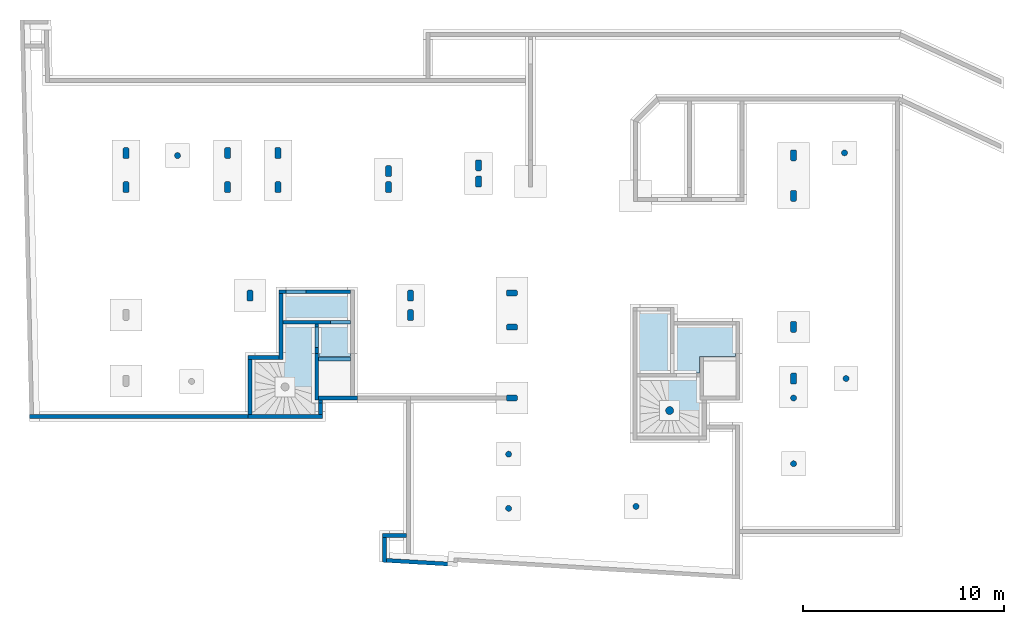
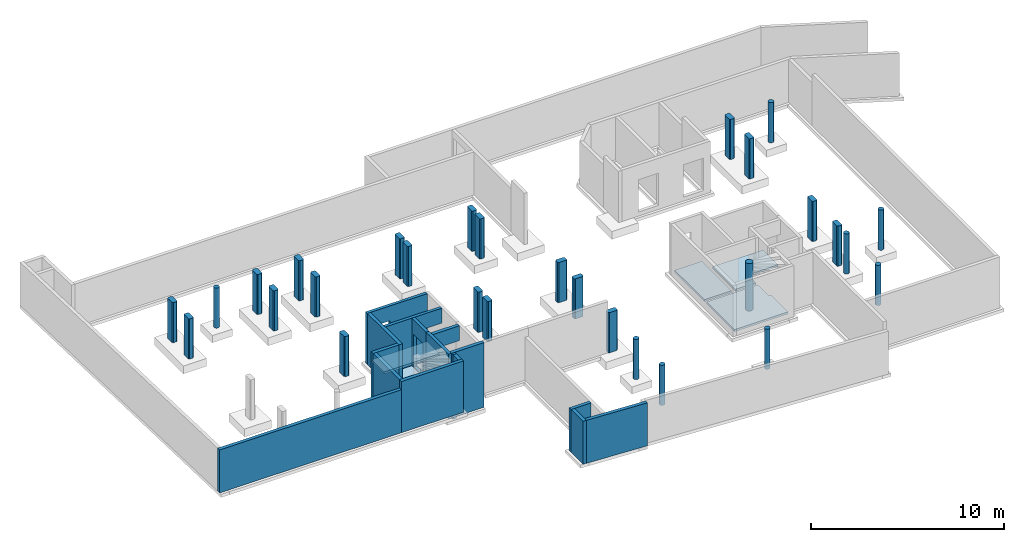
# One storey, part 3 of 6: 29 columns, 16 walls, 6 slabs, 4 openings.
"""IFC2X3 building model written with IfcOpenShell, lengths in millimetres."""

from ifc_helpers import new_model, entity, si_unit, converted_unit, frame, frame_2d, origin, origin_with_axes, place, context, subcontext, project, spatial, polyline, rectangle, circle, outline, extrude, faceted_brep, material, layer, layer_set, layer_usage, element, save


model = new_model("IFC2X3")

# Units and contexts
model_context = context("Model", 3, precision=1e-05, world=origin())
body_context = subcontext(model_context, "Body", "Model", "MODEL_VIEW")
ifc_project = project(units=[si_unit("LENGTHUNIT", "METRE", prefix="MILLI"), converted_unit("PLANEANGLEUNIT", "DEGREE", entity("IfcPlaneAngleMeasure", 0.0174532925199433), si_unit("PLANEANGLEUNIT", "RADIAN"), dimensions=[0, 0, 0, 0, 0, 0, 0]), si_unit("AREAUNIT", "SQUARE_METRE"), si_unit("VOLUMEUNIT", "CUBIC_METRE")], contexts=[model_context])

# Site, building, storey
site_placement = place(None, origin())
site = spatial("IfcSite", under=ifc_project, at=site_placement, Name="Propriété", CompositionType="ELEMENT")
building_placement = place(site_placement, origin_with_axes())
building = spatial("IfcBuilding", under=site, at=building_placement, Name="Bâtiment", CompositionType="ELEMENT")
storey_placement = place(building_placement, frame((0.0, 0.0, -3300.0), z_axis=(0.0, 0.0, 1.0), x_axis=(1.0, 0.0, 0.0)))
storey = spatial("IfcBuildingStorey", under=building, at=storey_placement, Name="Sous-sol", CompositionType="ELEMENT", Elevation=-3300.0)

# Columns
ifc_material_1 = material(Name="<Unnamed Material>")
column_1_placement = place(storey_placement, frame((3051.206901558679, 13315.04901986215, 0.0), z_axis=(0.0, 0.0, 1.0), x_axis=(1.0, 0.0, 0.0)))
element("IfcColumn", 1, at=column_1_placement, inside=storey, material=ifc_material_1, Name="<Unnamed Element>", context=body_context, shape_type="SweptSolid", body=[
    extrude(circle(Radius=150.0000000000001, at=frame_2d((149.3808548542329, 149.3808548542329), x_axis=(1.0, 0.0))), origin_with_axes(), (0.0, 0.0, 1.0), 2540.0),
])
ifc_material_2 = material(Name="<Unnamed Material>")
column_2_placement = place(storey_placement, frame((19551.20690155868, -1564.950980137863, 0.0), z_axis=(0.0, 0.0, 1.0), x_axis=(1.0, 0.0, 0.0)))
element("IfcColumn", 2, at=column_2_placement, inside=storey, material=ifc_material_2, Name="<Unnamed Element>", context=body_context, shape_type="SweptSolid", body=[
    extrude(circle(Radius=150.0000000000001, at=frame_2d((149.3808548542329, 149.3808548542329), x_axis=(1.0, 0.0))), origin_with_axes(), (0.0, 0.0, 1.0), 2540.0),
])
ifc_material_3 = material(Name="<Unnamed Material>")
column_3_placement = place(storey_placement, frame((19551.20690155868, -4264.950980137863, 0.0), z_axis=(0.0, 0.0, 1.0), x_axis=(1.0, 0.0, 0.0)))
element("IfcColumn", 3, at=column_3_placement, inside=storey, material=ifc_material_3, Name="<Unnamed Element>", context=body_context, shape_type="SweptSolid", body=[
    extrude(circle(Radius=150.0000000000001, at=frame_2d((149.3808548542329, 149.3808548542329), x_axis=(1.0, 0.0))), origin_with_axes(), (0.0, 0.0, 1.0), 2540.0),
])
ifc_material_4 = material(Name="<Unnamed Material>")
column_4_placement = place(storey_placement, frame((25901.20690155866, -4164.950980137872, 0.0), z_axis=(0.0, 0.0, 1.0), x_axis=(1.0, 0.0, 0.0)))
element("IfcColumn", 4, at=column_4_placement, inside=storey, material=ifc_material_4, Name="<Unnamed Element>", context=body_context, shape_type="SweptSolid", body=[
    extrude(circle(Radius=150.0000000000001, at=frame_2d((149.3808548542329, 149.3808548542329), x_axis=(1.0, 0.0))), origin_with_axes(), (0.0, 0.0, 1.0), 2540.0),
])
ifc_material_5 = material(Name="<Unnamed Material>")
column_5_placement = place(storey_placement, frame((33751.20690155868, -2039.95098013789, 0.0), z_axis=(0.0, 0.0, 1.0), x_axis=(1.0, 0.0, 0.0)))
element("IfcColumn", 5, at=column_5_placement, inside=storey, material=ifc_material_5, Name="<Unnamed Element>", context=body_context, shape_type="SweptSolid", body=[
    extrude(circle(Radius=150.0000000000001, at=frame_2d((149.3808548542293, 149.3808548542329), x_axis=(1.0, 0.0))), origin_with_axes(), (0.0, 0.0, 1.0), 2540.0),
])
ifc_material_6 = material(Name="<Unnamed Material>")
column_6_placement = place(storey_placement, frame((36371.20690155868, 2205.049019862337, 0.0), z_axis=(0.0, 0.0, 1.0), x_axis=(1.0, 0.0, 0.0)))
element("IfcColumn", 6, at=column_6_placement, inside=storey, material=ifc_material_6, Name="<Unnamed Element>", context=body_context, shape_type="SweptSolid", body=[
    extrude(circle(Radius=150.0000000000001, at=frame_2d((149.3808548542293, 149.3808548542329), x_axis=(1.0, 0.0))), origin_with_axes(), (0.0, 0.0, 1.0), 2540.0),
])
ifc_material_7 = material(Name="<Unnamed Material>")
column_7_placement = place(storey_placement, frame((36291.20690155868, 13455.04901986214, 0.0), z_axis=(0.0, 0.0, 1.0), x_axis=(1.0, 0.0, 0.0)))
element("IfcColumn", 7, at=column_7_placement, inside=storey, material=ifc_material_7, Name="<Unnamed Element>", context=body_context, shape_type="SweptSolid", body=[
    extrude(circle(Radius=150.0000000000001, at=frame_2d((149.3808548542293, 149.3808548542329), x_axis=(1.0, 0.0))), origin_with_axes(), (0.0, 0.0, 1.0), 2540.0),
])
ifc_material_8 = material(Name="<Unnamed Material>")
column_8_placement = place(storey_placement, frame((19585.5877564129, 6462.14711771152, 0.0), z_axis=(0.0, 0.0, 1.0), x_axis=(1.0, 0.0, 0.0)))
element("IfcColumn", 8, at=column_8_placement, inside=storey, material=ifc_material_8, Name="<Unnamed Element>", context=body_context, shape_type="SweptSolid", body=[
    extrude(outline(polyline([(0.0, 50.0), (50.0, 0.0), (500.0, 0.0), (550.0, 50.0), (550.0, 250.0), (500.0, 300.0), (50.0, 300.0), (0.0, 250.0), (0.0, 50.0)])), origin_with_axes(), (0.0, 0.0, 1.0), 2540.0),
])
ifc_material_9 = material(Name="<Unnamed Material>")
column_9_placement = place(storey_placement, frame((19585.5877564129, 4762.147117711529, 0.0), z_axis=(0.0, 0.0, 1.0), x_axis=(1.0, 0.0, 0.0)))
element("IfcColumn", 9, at=column_9_placement, inside=storey, material=ifc_material_9, Name="<Unnamed Element>", context=body_context, shape_type="SweptSolid", body=[
    extrude(outline(polyline([(0.0, 50.0), (50.0, 0.0), (500.0, 0.0), (550.0, 50.0), (550.0, 250.0), (500.0, 300.0), (50.0, 300.0), (0.0, 250.0), (0.0, 50.0)])), origin_with_axes(), (0.0, 0.0, 1.0), 2540.0),
])
ifc_material_10 = material(Name="<Unnamed Material>")
column_10_placement = place(storey_placement, frame((19585.5877564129, 1234.429874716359, 0.0), z_axis=(0.0, 0.0, 1.0), x_axis=(1.0, 0.0, 0.0)))
element("IfcColumn", 10, at=column_10_placement, inside=storey, material=ifc_material_10, Name="<Unnamed Element>", context=body_context, shape_type="SweptSolid", body=[
    extrude(outline(polyline([(0.0, 50.0), (50.0, 0.0), (500.0, 0.0), (550.0, 50.0), (550.0, 250.0), (500.0, 300.0), (50.0, 300.0), (0.0, 250.0), (0.0, 50.0)])), origin_with_axes(), (0.0, 0.0, 1.0), 2540.0),
])
ifc_material_11 = material(Name="<Unnamed Material>")
column_11_placement = place(storey_placement, frame((33750.58775641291, 13204.42987471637, 0.0), z_axis=(0.0, 0.0, 1.0), x_axis=(1.0, 0.0, 0.0)))
element("IfcColumn", 11, at=column_11_placement, inside=storey, material=ifc_material_11, Name="<Unnamed Element>", context=body_context, shape_type="SweptSolid", body=[
    extrude(outline(polyline([(250.0, 0.0), (300.0, 50.0), (300.0, 500.0), (250.0, 550.0), (50.0, 550.0), (0.0, 500.0), (0.0, 50.0), (50.0, 0.0), (250.0, 0.0)])), origin_with_axes(), (0.0, 0.0, 1.0), 2540.0),
])
ifc_material_12 = material(Name="<Unnamed Material>")
column_12_placement = place(storey_placement, frame((33750.58775641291, 11184.42987471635, 0.0), z_axis=(0.0, 0.0, 1.0), x_axis=(1.0, 0.0, 0.0)))
element("IfcColumn", 12, at=column_12_placement, inside=storey, material=ifc_material_12, Name="<Unnamed Element>", context=body_context, shape_type="SweptSolid", body=[
    extrude(outline(polyline([(250.0, 0.0), (300.0, 50.0), (300.0, 500.0), (250.0, 550.0), (50.0, 550.0), (0.0, 500.0), (0.0, 50.0), (50.0, 0.0), (250.0, 0.0)])), origin_with_axes(), (0.0, 0.0, 1.0), 2540.0),
])
ifc_material_13 = material(Name="<Unnamed Material>")
column_13_placement = place(storey_placement, frame((33750.58775641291, 4654.429874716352, 0.0), z_axis=(0.0, 0.0, 1.0), x_axis=(1.0, 0.0, 0.0)))
element("IfcColumn", 13, at=column_13_placement, inside=storey, material=ifc_material_13, Name="<Unnamed Element>", context=body_context, shape_type="SweptSolid", body=[
    extrude(outline(polyline([(250.0, 0.0), (300.0, 50.0), (300.0, 500.0), (250.0, 550.0), (50.0, 550.0), (0.0, 500.0), (0.0, 50.0), (50.0, 0.0), (250.0, 0.0)])), origin_with_axes(), (0.0, 0.0, 1.0), 2540.0),
])
ifc_material_14 = material(Name="<Unnamed Material>")
column_14_placement = place(storey_placement, frame((33750.58775641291, 2079.42987471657, 0.0), z_axis=(0.0, 0.0, 1.0), x_axis=(1.0, 0.0, 0.0)))
element("IfcColumn", 14, at=column_14_placement, inside=storey, material=ifc_material_14, Name="<Unnamed Element>", context=body_context, shape_type="SweptSolid", body=[
    extrude(outline(polyline([(250.0, 0.0), (300.0, 50.0), (300.0, 500.0), (250.0, 550.0), (50.0, 550.0), (0.0, 500.0), (0.0, 50.0), (50.0, 0.0), (250.0, 0.0)])), origin_with_axes(), (0.0, 0.0, 1.0), 2540.0),
])
ifc_material_15 = material(Name="<Unnamed Material>")
column_15_placement = place(storey_placement, frame((14660.58775641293, 6212.14711771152, 0.0), z_axis=(0.0, 0.0, 1.0), x_axis=(1.0, 0.0, 0.0)))
element("IfcColumn", 15, at=column_15_placement, inside=storey, material=ifc_material_15, Name="<Unnamed Element>", context=body_context, shape_type="SweptSolid", body=[
    extrude(outline(polyline([(250.0, 0.0), (300.0, 50.0), (300.0, 500.0), (250.0, 550.0), (50.0, 550.0), (0.0, 500.0), (0.0, 50.0), (50.0, 0.0), (250.0, 0.0)])), origin_with_axes(), (0.0, 0.0, 1.0), 2540.0),
])
ifc_material_16 = material(Name="<Unnamed Material>")
column_16_placement = place(storey_placement, frame((14660.58775641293, 5242.14711771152, 0.0), z_axis=(0.0, 0.0, 1.0), x_axis=(1.0, 0.0, 0.0)))
element("IfcColumn", 16, at=column_16_placement, inside=storey, material=ifc_material_16, Name="<Unnamed Element>", context=body_context, shape_type="SweptSolid", body=[
    extrude(outline(polyline([(250.0, 0.0), (300.0, 50.0), (300.0, 500.0), (250.0, 550.0), (50.0, 550.0), (0.0, 500.0), (0.0, 50.0), (50.0, 0.0), (250.0, 0.0)])), origin_with_axes(), (0.0, 0.0, 1.0), 2540.0),
])
ifc_material_17 = material(Name="<Unnamed Material>")
column_17_placement = place(storey_placement, frame((18050.58775641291, 12699.6393178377, 0.0), z_axis=(0.0, 0.0, 1.0), x_axis=(1.0, 0.0, 0.0)))
element("IfcColumn", 17, at=column_17_placement, inside=storey, material=ifc_material_17, Name="<Unnamed Element>", context=body_context, shape_type="SweptSolid", body=[
    extrude(outline(polyline([(250.0, 0.0), (300.0, 50.0), (300.0, 500.0), (250.0, 550.0), (50.0, 550.0), (0.0, 500.0), (0.0, 50.0), (50.0, 0.0), (250.0, 0.0)])), origin_with_axes(), (0.0, 0.0, 1.0), 2540.0),
])
ifc_material_18 = material(Name="<Unnamed Material>")
column_18_placement = place(storey_placement, frame((18050.58775641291, 11899.6393178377, 0.0), z_axis=(0.0, 0.0, 1.0), x_axis=(1.0, 0.0, 0.0)))
element("IfcColumn", 18, at=column_18_placement, inside=storey, material=ifc_material_18, Name="<Unnamed Element>", context=body_context, shape_type="SweptSolid", body=[
    extrude(outline(polyline([(250.0, 0.0), (300.0, 50.0), (300.0, 500.0), (250.0, 550.0), (50.0, 550.0), (0.0, 500.0), (0.0, 50.0), (50.0, 0.0), (250.0, 0.0)])), origin_with_axes(), (0.0, 0.0, 1.0), 2540.0),
])
ifc_material_19 = material(Name="<Unnamed Material>")
column_19_placement = place(storey_placement, frame((13560.5877564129, 12414.42987471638, 0.0), z_axis=(0.0, 0.0, 1.0), x_axis=(1.0, 0.0, 0.0)))
element("IfcColumn", 19, at=column_19_placement, inside=storey, material=ifc_material_19, Name="<Unnamed Element>", context=body_context, shape_type="SweptSolid", body=[
    extrude(outline(polyline([(250.0, 0.0), (300.0, 50.0), (300.0, 500.0), (250.0, 550.0), (50.0, 550.0), (0.0, 500.0), (0.0, 50.0), (50.0, 0.0), (250.0, 0.0)])), origin_with_axes(), (0.0, 0.0, 1.0), 2540.0),
])
ifc_material_20 = material(Name="<Unnamed Material>")
column_20_placement = place(storey_placement, frame((13560.5877564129, 11614.42987471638, 0.0), z_axis=(0.0, 0.0, 1.0), x_axis=(1.0, 0.0, 0.0)))
element("IfcColumn", 20, at=column_20_placement, inside=storey, material=ifc_material_20, Name="<Unnamed Element>", context=body_context, shape_type="SweptSolid", body=[
    extrude(outline(polyline([(250.0, 0.0), (300.0, 50.0), (300.0, 500.0), (250.0, 550.0), (50.0, 550.0), (0.0, 500.0), (0.0, 50.0), (50.0, 0.0), (250.0, 0.0)])), origin_with_axes(), (0.0, 0.0, 1.0), 2540.0),
])
ifc_material_21 = material(Name="<Unnamed Material>")
column_21_placement = place(storey_placement, frame((8050.587756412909, 11614.42987471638, 0.0), z_axis=(0.0, 0.0, 1.0), x_axis=(1.0, 0.0, 0.0)))
element("IfcColumn", 21, at=column_21_placement, inside=storey, material=ifc_material_21, Name="<Unnamed Element>", context=body_context, shape_type="SweptSolid", body=[
    extrude(outline(polyline([(249.9999999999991, 0.0), (299.9999999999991, 50.0), (299.9999999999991, 500.0), (249.9999999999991, 550.0), (50.0, 550.0), (0.0, 500.0), (0.0, 50.0), (50.0, 0.0), (249.9999999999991, 0.0)])), origin_with_axes(), (0.0, 0.0, 1.0), 2540.0),
])
ifc_material_22 = material(Name="<Unnamed Material>")
column_22_placement = place(storey_placement, frame((8050.587756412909, 13314.42987471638, 0.0), z_axis=(0.0, 0.0, 1.0), x_axis=(1.0, 0.0, 0.0)))
element("IfcColumn", 22, at=column_22_placement, inside=storey, material=ifc_material_22, Name="<Unnamed Element>", context=body_context, shape_type="SweptSolid", body=[
    extrude(outline(polyline([(249.9999999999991, 0.0), (299.9999999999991, 50.0), (299.9999999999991, 500.0), (249.9999999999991, 550.0), (50.0, 550.0), (0.0, 500.0), (0.0, 50.0), (50.0, 0.0), (249.9999999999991, 0.0)])), origin_with_axes(), (0.0, 0.0, 1.0), 2540.0),
])
ifc_material_23 = material(Name="<Unnamed Material>")
column_23_placement = place(storey_placement, frame((5550.587756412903, 13314.42987471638, 0.0), z_axis=(0.0, 0.0, 1.0), x_axis=(1.0, 0.0, 0.0)))
element("IfcColumn", 23, at=column_23_placement, inside=storey, material=ifc_material_23, Name="<Unnamed Element>", context=body_context, shape_type="SweptSolid", body=[
    extrude(outline(polyline([(250.0, 0.0), (300.0, 50.0), (300.0, 500.0), (250.0, 550.0), (50.0, 550.0), (0.0, 500.0), (0.0, 50.0), (50.0, 0.0), (250.0, 0.0)])), origin_with_axes(), (0.0, 0.0, 1.0), 2540.0),
])
ifc_material_24 = material(Name="<Unnamed Material>")
column_24_placement = place(storey_placement, frame((5550.587756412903, 11614.42987471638, 0.0), z_axis=(0.0, 0.0, 1.0), x_axis=(1.0, 0.0, 0.0)))
element("IfcColumn", 24, at=column_24_placement, inside=storey, material=ifc_material_24, Name="<Unnamed Element>", context=body_context, shape_type="SweptSolid", body=[
    extrude(outline(polyline([(250.0, 0.0), (300.0, 50.0), (300.0, 500.0), (250.0, 550.0), (50.0, 550.0), (0.0, 500.0), (0.0, 50.0), (50.0, 0.0), (250.0, 0.0)])), origin_with_axes(), (0.0, 0.0, 1.0), 2540.0),
])
ifc_material_25 = material(Name="<Unnamed Material>")
column_25_placement = place(storey_placement, frame((480.5877564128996, 13314.42987471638, 0.0), z_axis=(0.0, 0.0, 1.0), x_axis=(1.0, 0.0, 0.0)))
element("IfcColumn", 25, at=column_25_placement, inside=storey, material=ifc_material_25, Name="<Unnamed Element>", context=body_context, shape_type="SweptSolid", body=[
    extrude(outline(polyline([(250.0, 0.0), (300.0, 50.0), (300.0, 500.0), (250.0, 550.0), (50.0, 550.0), (0.0, 500.0), (0.0, 50.0), (50.0, 0.0), (250.0, 0.0)])), origin_with_axes(), (0.0, 0.0, 1.0), 2540.0),
])
ifc_material_26 = material(Name="<Unnamed Material>")
column_26_placement = place(storey_placement, frame((480.5877564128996, 11614.42987471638, 0.0), z_axis=(0.0, 0.0, 1.0), x_axis=(1.0, 0.0, 0.0)))
element("IfcColumn", 26, at=column_26_placement, inside=storey, material=ifc_material_26, Name="<Unnamed Element>", context=body_context, shape_type="SweptSolid", body=[
    extrude(outline(polyline([(250.0, 0.0), (300.0, 50.0), (300.0, 500.0), (250.0, 550.0), (50.0, 550.0), (0.0, 500.0), (0.0, 50.0), (50.0, 0.0), (250.0, 0.0)])), origin_with_axes(), (0.0, 0.0, 1.0), 2540.0),
])
ifc_material_27 = material(Name="<Unnamed Material>")
column_27_placement = place(storey_placement, frame((6660.5877564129, 6212.14711771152, 0.0), z_axis=(0.0, 0.0, 1.0), x_axis=(1.0, 0.0, 0.0)))
element("IfcColumn", 27, at=column_27_placement, inside=storey, material=ifc_material_27, Name="<Unnamed Element>", context=body_context, shape_type="SweptSolid", body=[
    extrude(outline(polyline([(250.0, 0.0), (300.0, 50.0), (300.0, 500.0), (250.0, 550.0), (50.0, 550.0), (0.0, 500.0), (0.0, 50.0), (50.0, 0.0), (250.0, 0.0)])), origin_with_axes(), (0.0, 0.0, 1.0), 2540.0),
])
ifc_material_28 = material(Name="<Unnamed Material>")
column_28_placement = place(storey_placement, frame((33751.20690155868, 1235.049019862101, 0.0), z_axis=(0.0, 0.0, 1.0), x_axis=(1.0, 0.0, 0.0)))
element("IfcColumn", 28, at=column_28_placement, inside=storey, material=ifc_material_28, Name="<Unnamed Element>", context=body_context, shape_type="SweptSolid", body=[
    extrude(circle(Radius=150.0000000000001, at=frame_2d((149.3808548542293, 149.3808548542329), x_axis=(1.0, 0.0))), origin_with_axes(), (0.0, 0.0, 1.0), 2540.0),
])
ifc_material_29 = material(Name="<Unnamed Material>")
column_29_placement = place(storey_placement, frame((27526.41328327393, 560.2554015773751, 0.0), z_axis=(0.0, 0.0, 1.0), x_axis=(1.0, 0.0, 0.0)))
element("IfcColumn", 29, at=column_29_placement, inside=storey, material=ifc_material_29, Name="<Unnamed Element>", context=body_context, shape_type="SweptSolid", body=[
    extrude(circle(Radius=200.0000000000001, at=frame_2d((199.1744731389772, 199.174473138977), x_axis=(1.0, 0.0))), origin_with_axes(), (0.0, 0.0, 1.0), 3240.0),
])

# Slabs
ifc_material_30 = material(Name="<Unnamed Material>")
ifc_layer_1 = layer(ifc_material_30, 130.0)
ifc_layer_set_1 = layer_set([ifc_layer_1])
ifc_layer_usage_1 = layer_usage(ifc_layer_set_1, "AXIS3", "POSITIVE", 0.0)
slab_1_placement = place(storey_placement, frame((8470.587756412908, 5262.14711771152, 120.0), z_axis=(0.0, 0.0, 1.0), x_axis=(1.0, 0.0, 0.0)))
element("IfcSlab", 30, at=slab_1_placement, inside=storey, material=ifc_layer_usage_1, Name="<Unnamed Element>", PredefinedType="FLOOR", context=body_context, shape_type="SweptSolid", body=[
    extrude(rectangle(XDim=3340.000000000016, YDim=1300.0, at=frame_2d((1670.000000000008, 650.0), x_axis=(1.0, 0.0))), origin_with_axes(), (0.0, 0.0, 1.0), 130.0),
])
ifc_material_31 = material(Name="<Unnamed Material>")
ifc_layer_2 = layer(ifc_material_31, 130.0)
ifc_layer_set_2 = layer_set([ifc_layer_2])
ifc_layer_usage_2 = layer_usage(ifc_layer_set_2, "AXIS3", "POSITIVE", 0.0)
slab_2_placement = place(storey_placement, frame((10240.58775641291, 5042.14711771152, 120.0), z_axis=(0.0, 0.0, 1.0), x_axis=(1.0, 0.0, 0.0)))
element("IfcSlab", 31, at=slab_2_placement, inside=storey, material=ifc_layer_usage_2, Name="<Unnamed Element>", PredefinedType="FLOOR", context=body_context, shape_type="SweptSolid", body=[
    extrude(rectangle(XDim=1583.275749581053, YDim=1570.000000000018, at=frame_2d((785.0000000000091, -791.6378747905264), x_axis=(0.0, -1.0))), origin_with_axes(), (0.0, 0.0, 1.0), 130.0),
])
ifc_material_32 = material(Name="<Unnamed Material>")
ifc_layer_3 = layer(ifc_material_32, 130.0)
ifc_layer_set_3 = layer_set([ifc_layer_3])
ifc_layer_usage_3 = layer_usage(ifc_layer_set_3, "AXIS3", "POSITIVE", 0.0)
slab_3_placement = place(storey_placement, frame((26120.58775641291, 2624.429874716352, 120.0), z_axis=(0.0, 0.0, 1.0), x_axis=(1.0, 0.0, 0.0)))
element("IfcSlab", 32, at=slab_3_placement, inside=storey, material=ifc_layer_usage_3, Name="<Unnamed Element>", PredefinedType="FLOOR", context=body_context, shape_type="SweptSolid", body=[
    extrude(rectangle(XDim=1630.000000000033, YDim=3080.0, at=frame_2d((815.0000000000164, 1540.0), x_axis=(1.0, 0.0))), origin_with_axes(), (0.0, 0.0, 1.0), 130.0),
])
ifc_material_33 = material(Name="<Unnamed Material>")
ifc_layer_4 = layer(ifc_material_33, 130.0)
ifc_layer_set_4 = layer_set([ifc_layer_4])
ifc_layer_usage_4 = layer_usage(ifc_layer_set_4, "AXIS3", "POSITIVE", 0.0)
slab_4_placement = place(storey_placement, frame((27970.58775641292, 2624.429874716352, 120.0), z_axis=(0.0, 0.0, 1.0), x_axis=(1.0, 0.0, 0.0)))
element("IfcSlab", 33, at=slab_4_placement, inside=storey, material=ifc_layer_usage_4, Name="<Unnamed Element>", PredefinedType="FLOOR", context=body_context, shape_type="SweptSolid", body=[
    extrude(outline(polyline([(2.546585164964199e-11, 0.0), (1239.999999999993, 0.0), (1239.999999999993, 829.9999999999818), (3030.000000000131, 829.9999999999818), (3029.999999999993, 2380.0), (0.0, 2380.0), (2.546585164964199e-11, 0.0)])), origin_with_axes(), (0.0, 0.0, 1.0), 130.0),
])
ifc_material_34 = material(Name="<Unnamed Material>")
ifc_layer_5 = layer(ifc_material_34, 130.0)
ifc_layer_set_5 = layer_set([ifc_layer_5])
ifc_layer_usage_5 = layer_usage(ifc_layer_set_5, "AXIS3", "POSITIVE", 0.0)
slab_5_placement = place(storey_placement, frame((26120.58775641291, -495.5701252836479, 120.0), z_axis=(0.0, 0.0, 1.0), x_axis=(1.0, 0.0, 0.0)))
element("IfcSlab", 34, at=slab_5_placement, inside=storey, material=ifc_layer_usage_5, Name="<Unnamed Element>", PredefinedType="FLOOR", context=body_context, shape_type="SweptSolid", body=[
    extrude(outline(polyline([(0.0, 2900.0), (0.0, 0.0), (3210.0, 0.0), (3210.0, 1759.999999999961), (3090.0, 1759.99999999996), (3090.0, 2900.0), (0.0, 2900.0)])), origin_with_axes(), (0.0, 0.0, 1.0), 130.0),
])
ifc_material_35 = material(Name="<Unnamed Material>")
ifc_layer_6 = layer(ifc_material_35, 130.0)
ifc_layer_set_6 = layer_set([ifc_layer_6])
ifc_layer_usage_6 = layer_usage(ifc_layer_set_6, "AXIS3", "POSITIVE", 0.0)
slab_6_placement = place(storey_placement, frame((6920.587756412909, 594.4298747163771, 120.0), z_axis=(0.0, 0.0, 1.0), x_axis=(1.0, 0.0, 0.0)))
element("IfcSlab", 35, at=slab_6_placement, inside=storey, material=ifc_layer_usage_6, Name="<Unnamed Element>", PredefinedType="FLOOR", context=body_context, shape_type="SweptSolid", body=[
    extrude(outline(polyline([(0.0, 0.0), (3279.999999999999, 0.0), (3279.999999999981, 669.9999999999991), (3099.999999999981, 670.0), (3099.999999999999, 4447.717242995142), (1549.999999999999, 4447.717242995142), (1549.999999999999, 2687.71724299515), (9.094947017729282e-12, 2687.717242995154), (0.0, 0.0)])), origin_with_axes(), (0.0, 0.0, 1.0), 130.0),
])

# Walls
ifc_material_36 = material(Name="béton")
ifc_layer_7 = layer(ifc_material_36, 200.0)
ifc_layer_set_7 = layer_set([ifc_layer_7])
ifc_layer_usage_7 = layer_usage(ifc_layer_set_7, "AXIS2", "POSITIVE", 0.0)
wall_1_placement = place(storey_placement, frame((14620.58775641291, -5367.749581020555, 0.0), z_axis=(0.0, 0.0, 1.0), x_axis=(-1.0, 0.0, 0.0)))
element("IfcWallStandardCase", 36, at=wall_1_placement, inside=storey, material=ifc_layer_usage_7, Name="<Unnamed Element>", context=body_context, shape_type="SweptSolid", body=[
    extrude(rectangle(XDim=1199.999999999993, YDim=200.0, at=frame_2d((599.9999999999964, 100.0), x_axis=(1.0, 0.0))), origin_with_axes(), (0.0, 0.0, 1.0), 2720.0),
])
ifc_material_37 = material(Name="béton")
ifc_layer_8 = layer(ifc_material_37, 200.0000000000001)
ifc_layer_set_8 = layer_set([ifc_layer_8])
ifc_layer_usage_8 = layer_usage(ifc_layer_set_8, "AXIS2", "POSITIVE", 0.0)
wall_2_placement = place(storey_placement, frame((13420.58775641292, -5567.749581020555, 0.0), z_axis=(0.0, 0.0, 1.0), x_axis=(-4.43623255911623e-15, -1.0, 0.0)))
element("IfcWallStandardCase", 37, at=wall_2_placement, inside=storey, material=ifc_layer_usage_8, Name="<Unnamed Element>", context=body_context, shape_type="SweptSolid", body=[
    extrude(outline(polyline([(0.0, 0.0), (1230.090654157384, 0.0), (1241.799284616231, 200.0000000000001), (-8.87246511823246e-13, 200.0), (0.0, 0.0)])), origin_with_axes(), (0.0, 0.0, 1.0), 2720.0),
])
ifc_material_38 = material(Name="béton")
ifc_layer_9 = layer(ifc_material_38, 200.0000000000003)
ifc_layer_set_9 = layer_set([ifc_layer_9])
ifc_layer_usage_9 = layer_usage(ifc_layer_set_9, "AXIS2", "POSITIVE", 0.0)
wall_3_placement = place(storey_placement, frame((13620.58775641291, -6809.548865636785, 0.0), z_axis=(0.0, 0.0, 1.0), x_axis=(0.9982907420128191, -0.05844308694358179, 0.0)))
element("IfcWallStandardCase", 38, at=wall_3_placement, inside=storey, material=ifc_layer_usage_9, Name="<Unnamed Element>", context=body_context, shape_type="SweptSolid", body=[
    extrude(outline(polyline([(0.0, 0.0), (3535.487072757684, 0.0), (3535.487072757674, 200.0000000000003), (-11.70863045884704, 199.9999999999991), (0.0, 0.0)])), origin_with_axes(), (0.0, 0.0, 1.0), 2720.0),
])

# Wall, opening
ifc_material_39 = material(Name="béton")
ifc_layer_10 = layer(ifc_material_39, 180.0)
ifc_layer_set_10 = layer_set([ifc_layer_10])
ifc_layer_usage_10 = layer_usage(ifc_layer_set_10, "AXIS2", "POSITIVE", 0.0)
wall_4_placement = place(storey_placement, frame((8450.587756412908, 5062.14711771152, 0.0), z_axis=(0.0, 0.0, 1.0), x_axis=(0.9999999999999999, 0.0, 0.0)))
wall_4 = element("IfcWallStandardCase", 39, at=wall_4_placement, inside=storey, material=ifc_layer_usage_10, Name="<Unnamed Element>", context=body_context, shape_type="SweptSolid", body=[
    extrude(rectangle(XDim=3380.000000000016, YDim=180.0, at=frame_2d((1690.000000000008, 89.99999999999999), x_axis=(1.0, 0.0))), origin_with_axes(), (0.0, 0.0, 1.0), 3240.0),
])
opening_1_placement = place(wall_4_placement, frame((2370.000000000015, 0.0, 250.0), z_axis=(0.0, 1.0, 0.0), x_axis=(0.0, 0.0, 1.0)))
element("IfcOpeningElement", 40, at=opening_1_placement, cuts=wall_4, Name="Baie de porte", ObjectType="Opening", context=body_context, shape_type="SweptSolid", body=[
    extrude(rectangle(XDim=2050.0, YDim=1010.000000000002, at=frame_2d((1025.0, 505.0000000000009), x_axis=(1.0, 0.0))), origin_with_axes(), (0.0, 0.0, 1.0), 180.0),
])

ifc_material_40 = material(Name="béton")
ifc_layer_11 = layer(ifc_material_40, 180.0)
ifc_layer_set_11 = layer_set([ifc_layer_11])
ifc_layer_usage_11 = layer_usage(ifc_layer_set_11, "AXIS2", "POSITIVE", 0.0)
wall_5_placement = place(storey_placement, frame((8250.587756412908, 6582.14711771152, 0.0), z_axis=(0.0, 0.0, 1.0), x_axis=(0.9999999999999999, 0.0, 0.0)))
wall_5 = element("IfcWallStandardCase", 41, at=wall_5_placement, inside=storey, material=ifc_layer_usage_11, Name="<Unnamed Element>", context=body_context, shape_type="SweptSolid", body=[
    extrude(rectangle(XDim=3580.000000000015, YDim=180.0, at=frame_2d((1790.000000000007, 89.99999999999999), x_axis=(1.0, 0.0))), origin_with_axes(), (0.0, 0.0, 1.0), 3240.0),
])
opening_2_placement = place(wall_5_placement, frame((350.0, 0.0, 250.0), z_axis=(0.0, 1.0, 0.0), x_axis=(0.0, 0.0, 1.0)))
element("IfcOpeningElement", 42, at=opening_2_placement, cuts=wall_5, Name="Baie de porte", ObjectType="Opening", context=body_context, shape_type="SweptSolid", body=[
    extrude(rectangle(XDim=2050.0, YDim=1010.000000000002, at=frame_2d((1025.0, 505.0000000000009), x_axis=(1.0, 0.0))), origin_with_axes(), (0.0, 0.0, 1.0), 180.0),
])

# Walls
ifc_material_41 = material(Name="béton")
ifc_layer_12 = layer(ifc_material_41, 200.0)
ifc_layer_set_12 = layer_set([ifc_layer_12])
ifc_layer_usage_12 = layer_usage(ifc_layer_set_12, "AXIS2", "POSITIVE", 0.0)
wall_6_placement = place(storey_placement, frame((8450.587756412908, 3302.147117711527, 0.0), z_axis=(0.0, 0.0, 1.0), x_axis=(0.0, 1.0, 0.0)))
element("IfcWallStandardCase", 43, at=wall_6_placement, inside=storey, material=ifc_layer_usage_12, Name="<Unnamed Element>", context=body_context, shape_type="SweptSolid", body=[
    extrude(rectangle(XDim=3279.999999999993, YDim=200.0, at=frame_2d((1639.999999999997, 100.0), x_axis=(1.0, 0.0))), origin_with_axes(), (0.0, 0.0, 1.0), 3240.0),
])
ifc_material_42 = material(Name="béton")
ifc_layer_13 = layer(ifc_material_42, 200.0)
ifc_layer_set_13 = layer_set([ifc_layer_13])
ifc_layer_usage_13 = layer_usage(ifc_layer_set_13, "AXIS2", "POSITIVE", 0.0)
wall_7_placement = place(storey_placement, frame((6700.587756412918, 3302.147117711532, 0.0), z_axis=(0.0, 0.0, 1.0), x_axis=(0.9999999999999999, -2.933853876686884e-15, 0.0)))
element("IfcWallStandardCase", 44, at=wall_7_placement, inside=storey, material=ifc_layer_usage_13, Name="<Unnamed Element>", context=body_context, shape_type="SweptSolid", body=[
    extrude(rectangle(XDim=1549.99999999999, YDim=200.0, at=frame_2d((774.999999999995, 99.99999999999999), x_axis=(1.0, 0.0))), origin_with_axes(), (0.0, 0.0, 1.0), 3240.0),
])
ifc_material_43 = material(Name="béton")
ifc_layer_14 = layer(ifc_material_43, 200.0)
ifc_layer_set_14 = layer_set([ifc_layer_14])
ifc_layer_usage_14 = layer_usage(ifc_layer_set_14, "AXIS2", "POSITIVE", 0.0)
wall_8_placement = place(storey_placement, frame((6900.587756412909, 574.4298747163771, 0.0), z_axis=(0.0, 0.0, 1.0), x_axis=(3.334270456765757e-15, 1.0, 0.0)))
element("IfcWallStandardCase", 45, at=wall_8_placement, inside=storey, material=ifc_layer_usage_14, Name="<Unnamed Element>", context=body_context, shape_type="SweptSolid", body=[
    extrude(rectangle(XDim=2727.717242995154, YDim=200.0, at=frame_2d((1363.858621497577, 100.0), x_axis=(1.0, 0.0))), origin_with_axes(), (0.0, 0.0, 1.0), 3240.0),
])
ifc_material_44 = material(Name="béton")
ifc_layer_15 = layer(ifc_material_44, 200.0)
ifc_layer_set_15 = layer_set([ifc_layer_15])
ifc_layer_usage_15 = layer_usage(ifc_layer_set_15, "AXIS2", "POSITIVE", 0.0)
wall_9_placement = place(storey_placement, frame((10220.58775641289, 1284.429874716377, -850.0), z_axis=(0.0, 0.0, 1.0), x_axis=(1.0, 0.0, 0.0)))
element("IfcWallStandardCase", 46, at=wall_9_placement, inside=storey, material=ifc_layer_usage_15, Name="<Unnamed Element>", context=body_context, shape_type="SweptSolid", body=[
    extrude(rectangle(XDim=1950.000000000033, YDim=200.0, at=frame_2d((975.0000000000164, 100.0), x_axis=(1.0, 0.0))), origin_with_axes(), (0.0, 0.0, 1.0), 4090.0),
])

# Wall, opening
ifc_material_45 = material(Name="béton")
ifc_layer_16 = layer(ifc_material_45, 180.0)
ifc_layer_set_16 = layer_set([ifc_layer_16])
ifc_layer_usage_16 = layer_usage(ifc_layer_set_16, "AXIS2", "POSITIVE", 0.0)
wall_10_placement = place(storey_placement, frame((10040.58775641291, 5062.14711771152, 0.0), z_axis=(0.0, 0.0, 1.0), x_axis=(-4.972376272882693e-15, -1.0, 0.0)))
wall_10 = element("IfcWallStandardCase", 47, at=wall_10_placement, inside=storey, material=ifc_layer_usage_16, Name="<Unnamed Element>", context=body_context, shape_type="SweptSolid", body=[
    extrude(rectangle(XDim=1463.275748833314, YDim=180.0, at=frame_2d((731.637874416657, 90.0), x_axis=(1.0, 0.0))), origin_with_axes(), (0.0, 0.0, 1.0), 3240.0),
])
opening_3_placement = place(wall_10_placement, frame((149.9999999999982, 8.185452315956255e-13, 250.0), z_axis=(0.0, 1.0, 0.0), x_axis=(0.0, 0.0, 1.0)))
element("IfcOpeningElement", 48, at=opening_3_placement, cuts=wall_10, Name="Baie de porte", ObjectType="Opening", context=body_context, shape_type="SweptSolid", body=[
    extrude(rectangle(XDim=2050.0, YDim=1010.000000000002, at=frame_2d((1025.0, 505.0000000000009), x_axis=(1.0, 0.0))), origin_with_axes(), (0.0, 0.0, 1.0), 180.0),
])

# Walls
ifc_material_46 = material(Name="béton")
ifc_layer_17 = layer(ifc_material_46, 180.0)
ifc_layer_set_17 = layer_set([ifc_layer_17])
ifc_layer_usage_17 = layer_usage(ifc_layer_set_17, "AXIS2", "POSITIVE", 0.0)
wall_11_placement = place(storey_placement, frame((10040.5877564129, 3598.871368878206, -850.0), z_axis=(0.0, 0.0, 1.0), x_axis=(-4.71558103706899e-15, -1.0, 0.0)))
element("IfcWallStandardCase", 49, at=wall_11_placement, inside=storey, material=ifc_layer_usage_17, Name="<Unnamed Element>", context=body_context, shape_type="SweptSolid", body=[
    extrude(rectangle(XDim=2314.441494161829, YDim=180.0, at=frame_2d((1157.220747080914, 90.0), x_axis=(1.0, 0.0))), origin_with_axes(), (0.0, 0.0, 1.0), 4090.0),
])
ifc_material_47 = material(Name="béton")
ifc_layer_18 = layer(ifc_material_47, 200.0)
ifc_layer_set_18 = layer_set([ifc_layer_18])
ifc_layer_usage_18 = layer_usage(ifc_layer_set_18, "AXIS2", "POSITIVE", 0.0)
wall_12_placement = place(storey_placement, frame((10420.58775641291, 1134.429874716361, -850.0), z_axis=(0.0, 0.0, 1.0), x_axis=(0.0, 1.0, 0.0)))
element("IfcWallStandardCase", 50, at=wall_12_placement, inside=storey, material=ifc_layer_usage_18, Name="<Unnamed Element>", context=body_context, shape_type="SweptSolid", body=[
    extrude(rectangle(XDim=150.0000000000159, YDim=200.0, at=frame_2d((75.00000000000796, 100.0), x_axis=(1.0, 0.0))), origin_with_axes(), (0.0, 0.0, 1.0), 4090.0),
])
ifc_material_48 = material(Name="béton")
ifc_layer_19 = layer(ifc_material_48, 200.0)
ifc_layer_set_19 = layer_set([ifc_layer_19])
ifc_layer_usage_19 = layer_usage(ifc_layer_set_19, "AXIS2", "POSITIVE", 0.0)
wall_13_placement = place(storey_placement, frame((10420.58775641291, 574.4298747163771, 0.0), z_axis=(0.0, 0.0, 1.0), x_axis=(0.0, 1.0, 0.0)))
element("IfcWallStandardCase", 51, at=wall_13_placement, inside=storey, material=ifc_layer_usage_19, Name="<Unnamed Element>", context=body_context, shape_type="SweptSolid", body=[
    extrude(rectangle(XDim=559.9999999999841, YDim=200.0, at=frame_2d((279.999999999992, 100.0), x_axis=(1.0, 0.0))), origin_with_axes(), (0.0, 0.0, 1.0), 3240.0),
])

# Wall, opening
ifc_material_49 = material(Name="béton")
ifc_layer_20 = layer(ifc_material_49, 200.0)
ifc_layer_set_20 = layer_set([ifc_layer_20])
ifc_layer_usage_20 = layer_usage(ifc_layer_set_20, "AXIS2", "POSITIVE", 0.0)
wall_14_placement = place(storey_placement, frame((10220.58775641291, 3234.429874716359, -1100.0), z_axis=(0.0, 0.0, 1.0), x_axis=(1.0, 0.0, 0.0)))
wall_14 = element("IfcWallStandardCase", 52, at=wall_14_placement, inside=storey, material=ifc_layer_usage_20, Name="<Unnamed Element>", context=body_context, shape_type="SweptSolid", body=[
    extrude(rectangle(XDim=1610.000000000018, YDim=200.0, at=frame_2d((805.0000000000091, 100.0), x_axis=(1.0, 0.0))), origin_with_axes(), (0.0, 0.0, 1.0), 4340.0),
])
opening_4_placement = place(wall_14_placement, frame((0.0, 0.0, 1350.0), z_axis=(0.0, 1.0, 0.0), x_axis=(0.0, 0.0, 1.0)))
element("IfcOpeningElement", 53, at=opening_4_placement, cuts=wall_14, Name="Baie de porte", ObjectType="Opening", context=body_context, shape_type="Brep", body=[
    faceted_brep([(0.0, 0.0, 200.0), (0.0, 0.0, 0.0), (0.0, 1610.000000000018, 0.0), (0.0, 1610.000000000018, 200.0), (2050.0, 0.0, 0.0), (2050.0, 0.0, 200.0), (2050.0, 1610.000000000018, 200.0), (2050.0, 1610.000000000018, 0.0), (0.0, 0.0, 0.0), (0.0, 0.0, 200.0), (2050.0, 0.0, 200.0), (2050.0, 0.0, 0.0), (0.0, 1610.000000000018, 0.0), (0.0, 0.0, 0.0), (2050.0, 0.0, 0.0), (2050.0, 1610.000000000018, 0.0), (0.0, 1610.000000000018, 200.0), (0.0, 1610.000000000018, 0.0), (2050.0, 1610.000000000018, 0.0), (2050.0, 1610.000000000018, 200.0), (0.0, 0.0, 200.0), (0.0, 1610.000000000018, 200.0), (2050.0, 1610.000000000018, 200.0), (2050.0, 0.0, 200.0)], [[[0, 1, 2, 3]], [[4, 5, 6, 7]], [[8, 9, 10, 11]], [[12, 13, 14, 15]], [[16, 17, 18, 19]], [[20, 21, 22, 23]]], orient=[[False], [False], [False], [False], [False], [False]]),
])

# Walls
ifc_material_50 = material(Name="béton")
ifc_layer_21 = layer(ifc_material_50, 200.0)
ifc_layer_set_21 = layer_set([ifc_layer_21])
ifc_layer_usage_21 = layer_usage(ifc_layer_set_21, "AXIS2", "POSITIVE", 0.0)
wall_15_placement = place(storey_placement, frame((-4170.772875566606, 374.4298747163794, 0.0), z_axis=(0.0, 0.0, 1.0), x_axis=(0.9999999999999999, -1.568619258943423e-16, 0.0)))
element("IfcWallStandardCase", 54, at=wall_15_placement, inside=storey, material=ifc_layer_usage_21, Name="<Unnamed Element>", context=body_context, shape_type="SweptSolid", body=[
    extrude(outline(polyline([(0.0, 0.0), (10871.36063197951, 2.01948391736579e-28), (10871.36063197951, 200.0), (-4.83726407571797, 200.0), (0.0, 0.0)])), origin_with_axes(), (0.0, 0.0, 1.0), 2720.0),
])
ifc_material_51 = material(Name="béton")
ifc_layer_22 = layer(ifc_material_51, 200.0)
ifc_layer_set_22 = layer_set([ifc_layer_22])
ifc_layer_usage_22 = layer_usage(ifc_layer_set_22, "AXIS2", "POSITIVE", 0.0)
wall_16_placement = place(storey_placement, frame((6700.587756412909, 374.4298747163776, 0.0), z_axis=(0.0, 0.0, 1.0), x_axis=(1.0, -1.528048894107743e-16, 0.0)))
element("IfcWallStandardCase", 55, at=wall_16_placement, inside=storey, material=ifc_layer_usage_22, Name="<Unnamed Element>", context=body_context, shape_type="SweptSolid", body=[
    extrude(rectangle(XDim=3719.999999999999, YDim=200.0, at=frame_2d((1860.0, 100.0), x_axis=(1.0, 0.0))), origin_with_axes(), (0.0, 0.0, 1.0), 3240.0),
])

save(model, "model.ifc")
